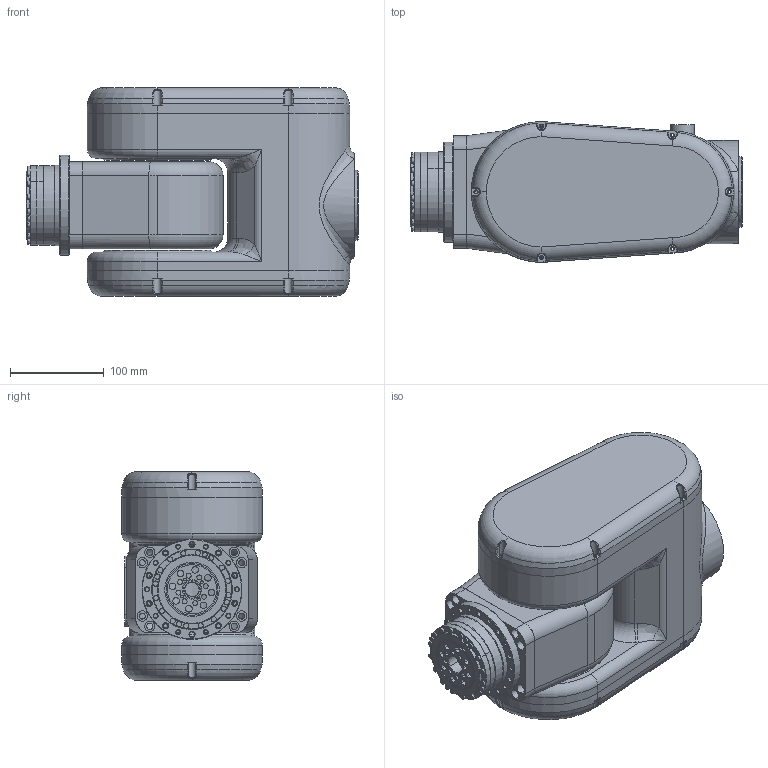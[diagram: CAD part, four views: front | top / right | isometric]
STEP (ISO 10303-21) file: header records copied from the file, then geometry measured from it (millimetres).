
FILE_DESCRIPTION (( 'STEP AP203' ), '1' );
FILE_NAME ('AC30模型图.STEP', '2024-09-26T08:06:23', ( '微软用户' ), ( '微软中国' ), 'SwSTEP 2.0', 'SolidWorks 2020', '' );
FILE_SCHEMA (( 'CONFIG_CONTROL_DESIGN' ));
Length unit declared in the file: millimetre
Products named in the file (1): AC30耀倰芞
Bounding box: 354.4 x 150 x 222.5 mm (x, y, z)
Surface area: 376041.4 mm2 (no closed solid volume)
Topology: 0 solids, 10 shells, 594 faces, 1806 edges, 1232 vertices
Faces by surface type: cylinder 310, plane 113, cone 78, bspline 72, torus 21
Entity records: 29760 total; most frequent: CARTESIAN_POINT 13336, DIRECTION 3566, ORIENTED_EDGE 3211, EDGE_CURVE 1804, AXIS2_PLACEMENT_3D 1497, VERTEX_POINT 1234, CIRCLE 974, EDGE_LOOP 777
